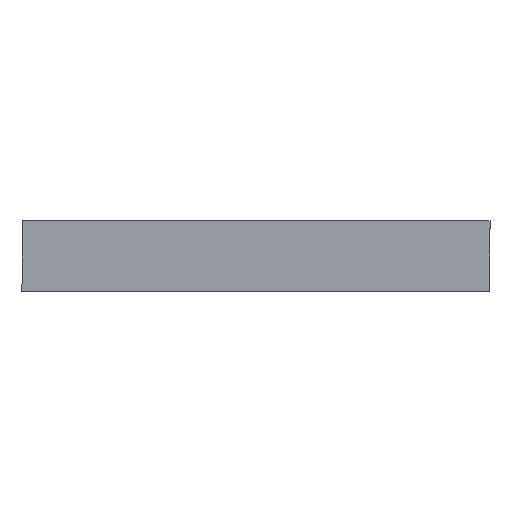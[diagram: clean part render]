
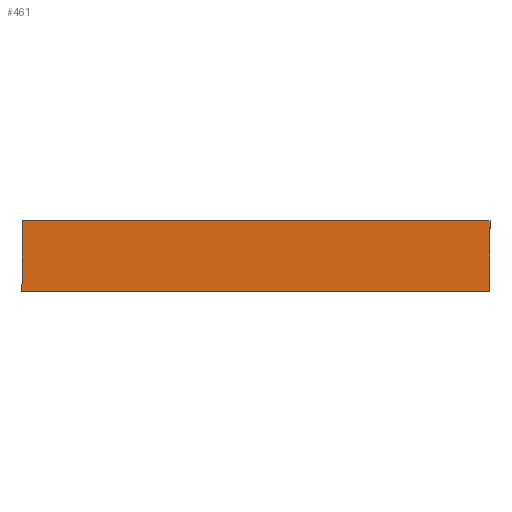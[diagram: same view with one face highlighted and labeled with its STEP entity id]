
A CAD part, left-side view. The second image highlights one B-rep face of the part: STEP entity #461.
In plain terms, the highlighted planar face has unit normal (-1, 0, 0).
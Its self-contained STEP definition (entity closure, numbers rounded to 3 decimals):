
#44 = AXIS2_PLACEMENT_3D ( 'NONE', #603, #597, #596 ) ;
#51 = EDGE_CURVE ( 'NONE', #755, #804, #247, .T. ) ;
#58 = EDGE_CURVE ( 'NONE', #720, #755, #228, .T. ) ;
#64 = EDGE_CURVE ( 'NONE', #720, #795, #218, .T. ) ;
#66 = EDGE_CURVE ( 'NONE', #795, #804, #214, .T. ) ;
#110 = FACE_OUTER_BOUND ( 'NONE', #308, .T. ) ;
#213 = VECTOR ( 'NONE', #741, 1000. ) ;
#214 = LINE ( 'NONE', #742, #213 ) ;
#217 = VECTOR ( 'NONE', #747, 1000. ) ;
#218 = LINE ( 'NONE', #748, #217 ) ;
#227 = VECTOR ( 'NONE', #761, 1000. ) ;
#228 = LINE ( 'NONE', #763, #227 ) ;
#238 = VECTOR ( 'NONE', #776, 1000. ) ;
#247 = LINE ( 'NONE', #787, #238 ) ;
#308 = EDGE_LOOP ( 'NONE', ( #397, #398, #399, #400 ) ) ;
#397 = ORIENTED_EDGE ( 'NONE', *, *, #66, .T. ) ;
#398 = ORIENTED_EDGE ( 'NONE', *, *, #51, .F. ) ;
#399 = ORIENTED_EDGE ( 'NONE', *, *, #58, .F. ) ;
#400 = ORIENTED_EDGE ( 'NONE', *, *, #64, .T. ) ;
#461 = ADVANCED_FACE ( 'NONE', ( #110 ), #607, .F. ) ;
#515 = CARTESIAN_POINT ( 'NONE',  ( -254., 0., 0. ) ) ;
#518 = CARTESIAN_POINT ( 'NONE',  ( -254., 429., 0. ) ) ;
#531 = CARTESIAN_POINT ( 'NONE',  ( -254., 0., 65. ) ) ;
#542 = CARTESIAN_POINT ( 'NONE',  ( -254., 429., 65. ) ) ;
#596 = DIRECTION ( 'NONE',  ( 0., 1., 0. ) ) ;
#597 = DIRECTION ( 'NONE',  ( 1., 0., 0. ) ) ;
#603 = CARTESIAN_POINT ( 'NONE',  ( -254., 0., 65. ) ) ;
#607 = PLANE ( 'NONE',  #44 ) ;
#720 = VERTEX_POINT ( 'NONE', #542 ) ;
#741 = DIRECTION ( 'NONE',  ( 0., -1., 0. ) ) ;
#742 = CARTESIAN_POINT ( 'NONE',  ( -254., 0., 0. ) ) ;
#747 = DIRECTION ( 'NONE',  ( 0., 0., -1. ) ) ;
#748 = CARTESIAN_POINT ( 'NONE',  ( -254., 429., 65. ) ) ;
#755 = VERTEX_POINT ( 'NONE', #531 ) ;
#761 = DIRECTION ( 'NONE',  ( 0., -1., 0. ) ) ;
#763 = CARTESIAN_POINT ( 'NONE',  ( -254., 0., 65. ) ) ;
#776 = DIRECTION ( 'NONE',  ( 0., 0., -1. ) ) ;
#787 = CARTESIAN_POINT ( 'NONE',  ( -254., 0., 65. ) ) ;
#795 = VERTEX_POINT ( 'NONE', #518 ) ;
#804 = VERTEX_POINT ( 'NONE', #515 ) ;
